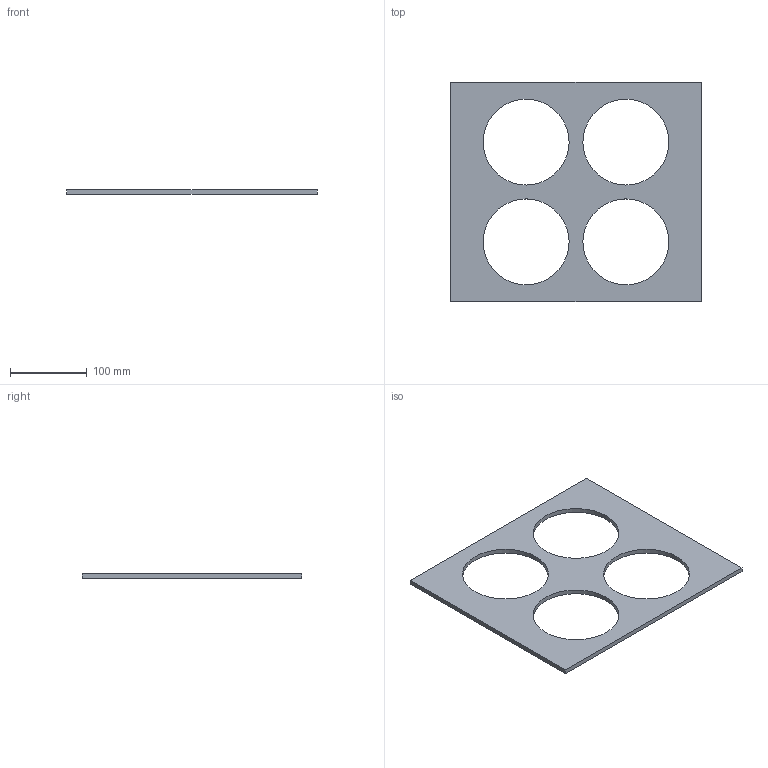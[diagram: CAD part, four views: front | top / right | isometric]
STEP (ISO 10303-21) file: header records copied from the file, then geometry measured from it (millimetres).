
FILE_DESCRIPTION(('Open CASCADE Model'),'2;1');
FILE_NAME('Open CASCADE Shape Model','2026-10-16T21:03:11',('Author'),( 'Open CASCADE'),'Open CASCADE STEP processor 7.8','Open CASCADE 7.8' ,'Unknown');
FILE_SCHEMA(('AUTOMOTIVE_DESIGN { 1 0 10303 214 1 1 1 1 }'));
Length unit declared in the file: millimetre
Products named in the file (1): Open CASCADE STEP translator 7.8 1
Bounding box: 326 x 286 x 6 mm (x, y, z)
Volume: 322967.2 mm3; surface area: 123444.3 mm2
Topology: 1 solids, 1 shells, 10 faces, 24 edges, 16 vertices
Faces by surface type: plane 6, cylinder 4
Full cylindrical faces by diameter (mm): 112 x4
Entity records: 658 total; most frequent: CARTESIAN_POINT 147, DIRECTION 94, LINE 56, VECTOR 56, ORIENTED_EDGE 48, PCURVE 48, DEFINITIONAL_REPRESENTATION 48, EDGE_CURVE 24
